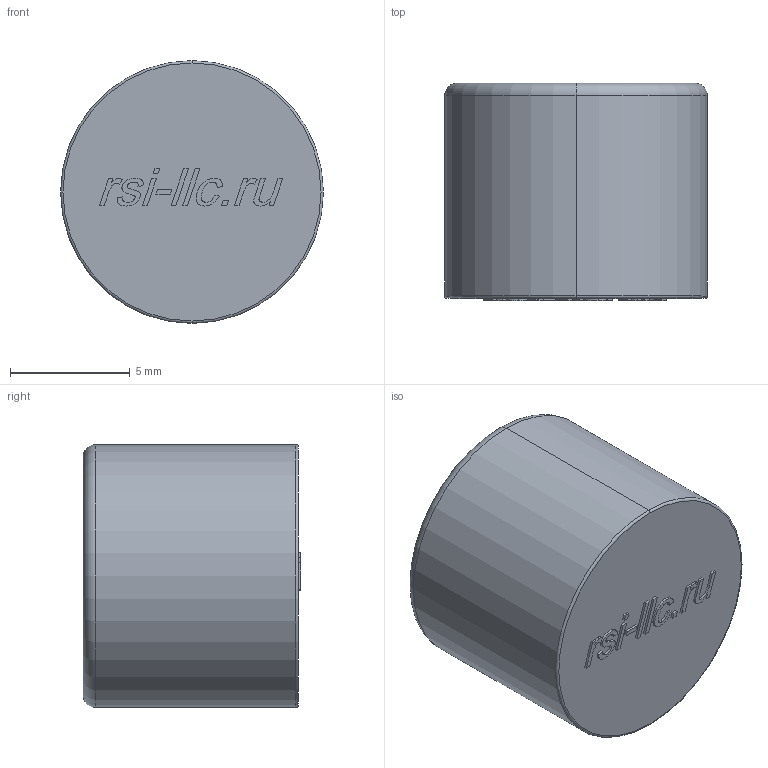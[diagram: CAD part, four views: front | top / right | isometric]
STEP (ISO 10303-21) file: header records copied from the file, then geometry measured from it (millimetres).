
FILE_DESCRIPTION (( 'STEP AP214' ), '1' );
FILE_NAME ('CAP-TRH-25.STEP', '2020-10-13T06:26:03', ( '' ), ( '' ), 'SwSTEP 2.0', 'SolidWorks 2018', '' );
FILE_SCHEMA (( 'AUTOMOTIVE_DESIGN' ));
Length unit declared in the file: millimetre
Products named in the file (1): CAP-TRH-25
Bounding box: 11 x 9.1 x 11 mm (x, y, z)
Volume: 408.4 mm3; surface area: 693.9 mm2
Topology: 1 solids, 1 shells, 105 faces, 269 edges, 178 vertices
Faces by surface type: plane 65, bspline 32, torus 4, cylinder 4
Entity records: 6076 total; most frequent: CARTESIAN_POINT 2537, ORIENTED_EDGE 538, DIRECTION 369, EDGE_CURVE 269, LINE 189, VECTOR 189, VERTEX_POINT 178, EDGE_LOOP 117
